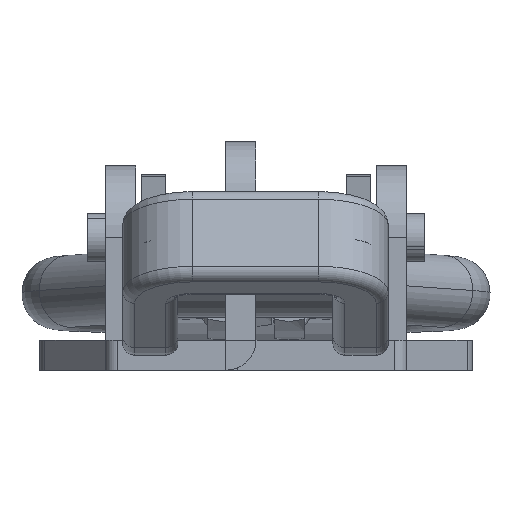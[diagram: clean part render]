
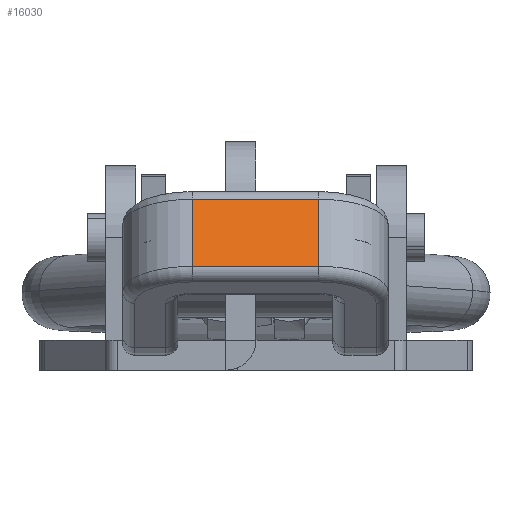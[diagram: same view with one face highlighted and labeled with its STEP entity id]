
A CAD part, front view. The second image highlights one B-rep face of the part: STEP entity #16030.
In plain terms, the highlighted planar face has unit normal (0, -0.929, 0.369) as drawn and (0, -1, 0) by its records, which use the part's own axes.
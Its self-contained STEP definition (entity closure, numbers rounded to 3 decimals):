
#189 = VERTEX_POINT ( 'NONE', #4590 ) ;
#1218 = EDGE_CURVE ( 'NONE', #6975, #25893, #4976, .T. ) ;
#1555 = VECTOR ( 'NONE', #14195, 1000. ) ;
#4221 = DIRECTION ( 'NONE',  ( 0., 1., 0. ) ) ;
#4430 = ORIENTED_EDGE ( 'NONE', *, *, #12679, .T. ) ;
#4590 = CARTESIAN_POINT ( 'NONE',  ( -5.25, -2.3, 3. ) ) ;
#4976 = LINE ( 'NONE', #19780, #20427 ) ;
#6139 = CARTESIAN_POINT ( 'NONE',  ( 5.25, -2.3, -3. ) ) ;
#6301 = ORIENTED_EDGE ( 'NONE', *, *, #8219, .T. ) ;
#6883 = LINE ( 'NONE', #20239, #1555 ) ;
#6975 = VERTEX_POINT ( 'NONE', #7354 ) ;
#7354 = CARTESIAN_POINT ( 'NONE',  ( 5.25, -2.3, 3. ) ) ;
#7724 = FACE_OUTER_BOUND ( 'NONE', #12084, .T. ) ;
#7995 = CARTESIAN_POINT ( 'NONE',  ( 5.25, -2.3, -3. ) ) ;
#8219 = EDGE_CURVE ( 'NONE', #189, #19704, #24371, .T. ) ;
#12084 = EDGE_LOOP ( 'NONE', ( #4430, #6301, #18762, #16015 ) ) ;
#12292 = CARTESIAN_POINT ( 'NONE',  ( -5.25, -2.3, -3. ) ) ;
#12679 = EDGE_CURVE ( 'NONE', #6975, #189, #21736, .T. ) ;
#14195 = DIRECTION ( 'NONE',  ( -1., 0., 0. ) ) ;
#16015 = ORIENTED_EDGE ( 'NONE', *, *, #1218, .F. ) ;
#16030 = ADVANCED_FACE ( 'NONE', ( #7724 ), #16273, .F. ) ;
#16273 = PLANE ( 'NONE',  #21112 ) ;
#16341 = VECTOR ( 'NONE', #18714, 1000. ) ;
#16678 = CARTESIAN_POINT ( 'NONE',  ( 5.25, -2.3, 3. ) ) ;
#18299 = DIRECTION ( 'NONE',  ( 0., 0., 1. ) ) ;
#18714 = DIRECTION ( 'NONE',  ( -1., 0., 0. ) ) ;
#18762 = ORIENTED_EDGE ( 'NONE', *, *, #19185, .F. ) ;
#19032 = VECTOR ( 'NONE', #19053, 1000. ) ;
#19053 = DIRECTION ( 'NONE',  ( 0., 0., -1. ) ) ;
#19185 = EDGE_CURVE ( 'NONE', #25893, #19704, #6883, .T. ) ;
#19704 = VERTEX_POINT ( 'NONE', #12292 ) ;
#19780 = CARTESIAN_POINT ( 'NONE',  ( 5.25, -2.3, -3. ) ) ;
#20239 = CARTESIAN_POINT ( 'NONE',  ( 5.25, -2.3, -3. ) ) ;
#20427 = VECTOR ( 'NONE', #23791, 1000. ) ;
#21112 = AXIS2_PLACEMENT_3D ( 'NONE', #6139, #4221, #18299 ) ;
#21736 = LINE ( 'NONE', #16678, #16341 ) ;
#22920 = CARTESIAN_POINT ( 'NONE',  ( -5.25, -2.3, -3. ) ) ;
#23791 = DIRECTION ( 'NONE',  ( 0., 0., -1. ) ) ;
#24371 = LINE ( 'NONE', #22920, #19032 ) ;
#25893 = VERTEX_POINT ( 'NONE', #7995 ) ;
